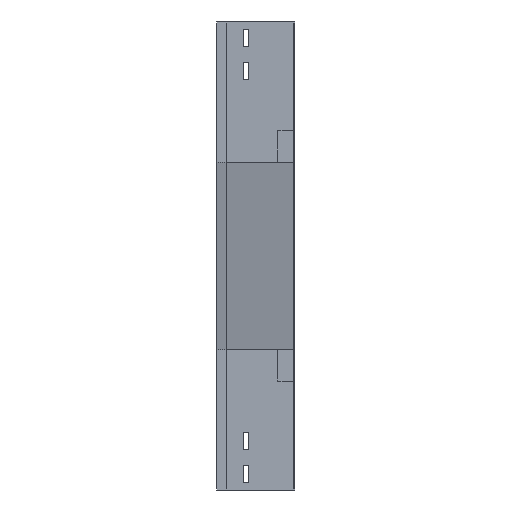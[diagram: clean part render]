
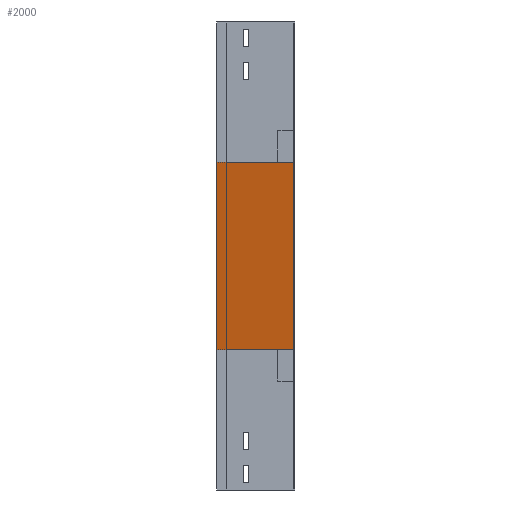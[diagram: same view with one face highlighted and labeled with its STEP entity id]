
A CAD part, left-side view. The second image highlights one B-rep face of the part: STEP entity #2000.
In plain terms, the highlighted planar face has unit normal (-0.979, 0, -0.204).
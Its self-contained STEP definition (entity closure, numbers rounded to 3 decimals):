
#182 = CARTESIAN_POINT ( 'NONE',  ( 0., 100., -180. ) ) ;
#254 = CARTESIAN_POINT ( 'NONE',  ( 0., 0., -180. ) ) ;
#273 = DIRECTION ( 'NONE',  ( 0.979, 0., 0.204 ) ) ;
#458 = ORIENTED_EDGE ( 'NONE', *, *, #1903, .F. ) ;
#670 = ORIENTED_EDGE ( 'NONE', *, *, #1107, .F. ) ;
#717 = LINE ( 'NONE', #3476, #3167 ) ;
#792 = VECTOR ( 'NONE', #834, 1000. ) ;
#834 = DIRECTION ( 'NONE',  ( 0., -1., 0. ) ) ;
#1107 = EDGE_CURVE ( 'NONE', #2868, #3578, #717, .T. ) ;
#1119 = ORIENTED_EDGE ( 'NONE', *, *, #3109, .T. ) ;
#1190 = CARTESIAN_POINT ( 'NONE',  ( 0., 100., -180. ) ) ;
#1251 = AXIS2_PLACEMENT_3D ( 'NONE', #254, #273, #2063 ) ;
#1275 = EDGE_LOOP ( 'NONE', ( #3822, #458, #1119, #670 ) ) ;
#1463 = VECTOR ( 'NONE', #2918, 1000. ) ;
#1580 = VERTEX_POINT ( 'NONE', #1190 ) ;
#1891 = LINE ( 'NONE', #2473, #2551 ) ;
#1903 = EDGE_CURVE ( 'NONE', #1580, #2821, #3588, .T. ) ;
#1911 = DIRECTION ( 'NONE',  ( 0.204, 0., -0.979 ) ) ;
#2000 = ADVANCED_FACE ( 'NONE', ( #3630 ), #3933, .F. ) ;
#2063 = DIRECTION ( 'NONE',  ( 0.204, 0., -0.979 ) ) ;
#2364 = CARTESIAN_POINT ( 'NONE',  ( 0., 0., -180. ) ) ;
#2413 = CARTESIAN_POINT ( 'NONE',  ( 50., 0., -420. ) ) ;
#2473 = CARTESIAN_POINT ( 'NONE',  ( 0., 0., -180. ) ) ;
#2512 = DIRECTION ( 'NONE',  ( 0., 1., 0. ) ) ;
#2551 = VECTOR ( 'NONE', #1911, 1000. ) ;
#2713 = CARTESIAN_POINT ( 'NONE',  ( 50., 100., -420. ) ) ;
#2821 = VERTEX_POINT ( 'NONE', #3536 ) ;
#2868 = VERTEX_POINT ( 'NONE', #2413 ) ;
#2918 = DIRECTION ( 'NONE',  ( 0.204, 0., -0.979 ) ) ;
#3109 = EDGE_CURVE ( 'NONE', #1580, #3578, #3553, .T. ) ;
#3167 = VECTOR ( 'NONE', #2512, 1000. ) ;
#3476 = CARTESIAN_POINT ( 'NONE',  ( 50., 0., -420. ) ) ;
#3536 = CARTESIAN_POINT ( 'NONE',  ( 0., 0., -180. ) ) ;
#3553 = LINE ( 'NONE', #182, #1463 ) ;
#3578 = VERTEX_POINT ( 'NONE', #2713 ) ;
#3588 = LINE ( 'NONE', #2364, #792 ) ;
#3630 = FACE_OUTER_BOUND ( 'NONE', #1275, .T. ) ;
#3657 = EDGE_CURVE ( 'NONE', #2821, #2868, #1891, .T. ) ;
#3822 = ORIENTED_EDGE ( 'NONE', *, *, #3657, .F. ) ;
#3933 = PLANE ( 'NONE',  #1251 ) ;
